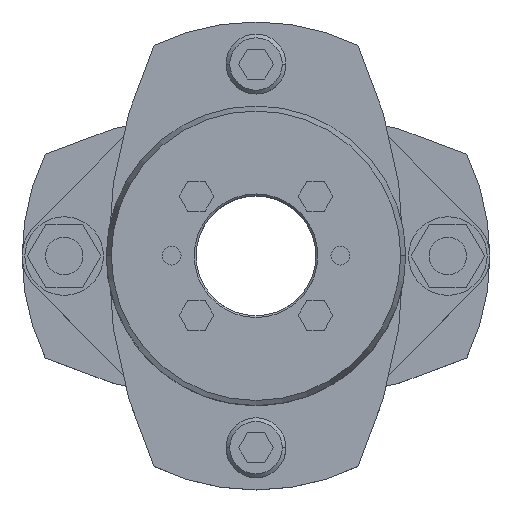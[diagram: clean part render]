
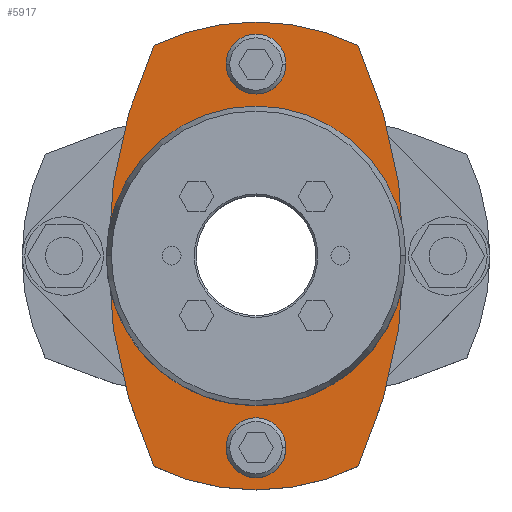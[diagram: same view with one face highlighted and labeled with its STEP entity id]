
A CAD part, top view. The second image highlights one B-rep face of the part: STEP entity #5917.
In plain terms, the highlighted planar face has unit normal (0, 0, 1).
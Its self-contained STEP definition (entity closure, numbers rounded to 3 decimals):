
#773=CARTESIAN_POINT('',(39.5,0.,19.0));
#774=VERTEX_POINT('',#773);
#790=CARTESIAN_POINT('',(27.217,56.263,19.0));
#791=VERTEX_POINT('',#790);
#798=CARTESIAN_POINT('',(-95.5,0.,19.0));
#799=DIRECTION('',(0.0,0.0,-1.0));
#800=DIRECTION('',(1.0,0.0,0.0));
#801=AXIS2_PLACEMENT_3D('',#798,#799,#800);
#802=CIRCLE('',#801,135.);
#803=EDGE_CURVE('',#791,#774,#802,.T.);
#813=CARTESIAN_POINT('',(-39.5,0.,19.0));
#814=VERTEX_POINT('',#813);
#823=CARTESIAN_POINT('',(-27.217,56.263,19.0));
#824=VERTEX_POINT('',#823);
#825=CARTESIAN_POINT('',(95.5,0.,19.0));
#826=DIRECTION('',(0.0,0.0,-1.0));
#827=DIRECTION('',(1.0,0.0,0.0));
#828=AXIS2_PLACEMENT_3D('',#825,#826,#827);
#829=CIRCLE('',#828,135.);
#830=EDGE_CURVE('',#814,#824,#829,.T.);
#1079=CARTESIAN_POINT('',(27.5,0.,19.0));
#1080=VERTEX_POINT('',#1079);
#1130=CARTESIAN_POINT('',(-27.5,0.,19.0));
#1131=VERTEX_POINT('',#1130);
#1138=CARTESIAN_POINT('',(0.,0.,19.0));
#1139=DIRECTION('',(0.0,0.0,-1.0));
#1140=DIRECTION('',(1.0,0.0,0.0));
#1141=AXIS2_PLACEMENT_3D('',#1138,#1139,#1140);
#1142=CIRCLE('',#1141,27.5);
#1143=EDGE_CURVE('',#1080,#1131,#1142,.T.);
#1237=CARTESIAN_POINT('',(8.,51.25,19.0));
#1238=VERTEX_POINT('',#1237);
#1247=CARTESIAN_POINT('',(-8.,51.25,19.0));
#1248=VERTEX_POINT('',#1247);
#1249=CARTESIAN_POINT('',(0.,51.25,19.0));
#1250=DIRECTION('',(0.0,0.0,-1.0));
#1251=DIRECTION('',(1.0,0.0,0.0));
#1252=AXIS2_PLACEMENT_3D('',#1249,#1250,#1251);
#1253=CIRCLE('',#1252,8.0);
#1254=EDGE_CURVE('',#1248,#1238,#1253,.T.);
#1311=CARTESIAN_POINT('',(8.,-51.25,19.0));
#1312=VERTEX_POINT('',#1311);
#1321=CARTESIAN_POINT('',(-8.,-51.25,19.0));
#1322=VERTEX_POINT('',#1321);
#1323=CARTESIAN_POINT('',(0.,-51.25,19.0));
#1324=DIRECTION('',(0.0,0.0,-1.0));
#1325=DIRECTION('',(1.0,0.0,0.0));
#1326=AXIS2_PLACEMENT_3D('',#1323,#1324,#1325);
#1327=CIRCLE('',#1326,8.0);
#1328=EDGE_CURVE('',#1322,#1312,#1327,.T.);
#4460=CARTESIAN_POINT('',(0.,-51.25,19.0));
#4461=DIRECTION('',(0.0,0.0,-1.0));
#4462=DIRECTION('',(1.0,0.0,0.0));
#4463=AXIS2_PLACEMENT_3D('',#4460,#4461,#4462);
#4464=CIRCLE('',#4463,8.0);
#4465=EDGE_CURVE('',#1312,#1322,#4464,.T.);
#4520=CARTESIAN_POINT('',(0.,51.25,19.0));
#4521=DIRECTION('',(0.0,0.0,-1.0));
#4522=DIRECTION('',(1.0,0.0,0.0));
#4523=AXIS2_PLACEMENT_3D('',#4520,#4521,#4522);
#4524=CIRCLE('',#4523,8.0);
#4525=EDGE_CURVE('',#1238,#1248,#4524,.T.);
#5590=CARTESIAN_POINT('',(0.,0.,19.0));
#5591=DIRECTION('',(0.0,0.0,-1.0));
#5592=DIRECTION('',(1.0,0.0,0.0));
#5593=AXIS2_PLACEMENT_3D('',#5590,#5591,#5592);
#5594=CIRCLE('',#5593,27.5);
#5595=EDGE_CURVE('',#1131,#1080,#5594,.T.);
#5811=CARTESIAN_POINT('',(27.217,-56.263,19.0));
#5812=VERTEX_POINT('',#5811);
#5813=CARTESIAN_POINT('',(-27.217,-56.263,19.0));
#5814=VERTEX_POINT('',#5813);
#5815=CARTESIAN_POINT('',(0.,0.,19.0));
#5816=DIRECTION('',(0.0,0.0,-1.0));
#5817=DIRECTION('',(1.0,0.0,0.0));
#5818=AXIS2_PLACEMENT_3D('',#5815,#5816,#5817);
#5819=CIRCLE('',#5818,62.5);
#5820=EDGE_CURVE('',#5812,#5814,#5819,.T.);
#5846=CARTESIAN_POINT('',(95.5,0.,19.0));
#5847=DIRECTION('',(0.0,0.0,-1.0));
#5848=DIRECTION('',(1.0,0.0,0.0));
#5849=AXIS2_PLACEMENT_3D('',#5846,#5847,#5848);
#5850=CIRCLE('',#5849,135.);
#5851=EDGE_CURVE('',#5814,#814,#5850,.T.);
#5861=CARTESIAN_POINT('',(0.,0.0,19.0));
#5862=DIRECTION('',(0.0,0.0,-1.0));
#5863=DIRECTION('',(1.0,0.0,0.0));
#5864=AXIS2_PLACEMENT_3D('',#5861,#5862,#5863);
#5865=CIRCLE('',#5864,62.5);
#5866=EDGE_CURVE('',#824,#791,#5865,.T.);
#5880=CARTESIAN_POINT('',(-95.5,0.,19.0));
#5881=DIRECTION('',(0.0,0.0,-1.0));
#5882=DIRECTION('',(1.0,0.0,0.0));
#5883=AXIS2_PLACEMENT_3D('',#5880,#5881,#5882);
#5884=CIRCLE('',#5883,135.);
#5885=EDGE_CURVE('',#774,#5812,#5884,.T.);
#5892=CARTESIAN_POINT('',(0.,0.,19.0));
#5893=DIRECTION('',(0.0,0.0,1.0));
#5894=DIRECTION('',(1.0,0.0,0.0));
#5895=AXIS2_PLACEMENT_3D('',#5892,#5893,#5894);
#5896=PLANE('',#5895);
#5897=ORIENTED_EDGE('',*,*,#5820,.F.);
#5898=ORIENTED_EDGE('',*,*,#5885,.F.);
#5899=ORIENTED_EDGE('',*,*,#803,.F.);
#5900=ORIENTED_EDGE('',*,*,#5866,.F.);
#5901=ORIENTED_EDGE('',*,*,#830,.F.);
#5902=ORIENTED_EDGE('',*,*,#5851,.F.);
#5903=EDGE_LOOP('',(#5897,#5898,#5899,#5900,#5901,#5902));
#5904=FACE_OUTER_BOUND('',#5903,.T.);
#5905=ORIENTED_EDGE('',*,*,#4465,.T.);
#5906=ORIENTED_EDGE('',*,*,#1328,.T.);
#5907=EDGE_LOOP('',(#5905,#5906));
#5908=FACE_BOUND('',#5907,.T.);
#5909=ORIENTED_EDGE('',*,*,#4525,.T.);
#5910=ORIENTED_EDGE('',*,*,#1254,.T.);
#5911=EDGE_LOOP('',(#5909,#5910));
#5912=FACE_BOUND('',#5911,.T.);
#5913=ORIENTED_EDGE('',*,*,#1143,.T.);
#5914=ORIENTED_EDGE('',*,*,#5595,.T.);
#5915=EDGE_LOOP('',(#5913,#5914));
#5916=FACE_BOUND('',#5915,.T.);
#5917=ADVANCED_FACE('',(#5904,#5908,#5912,#5916),#5896,.T.);
